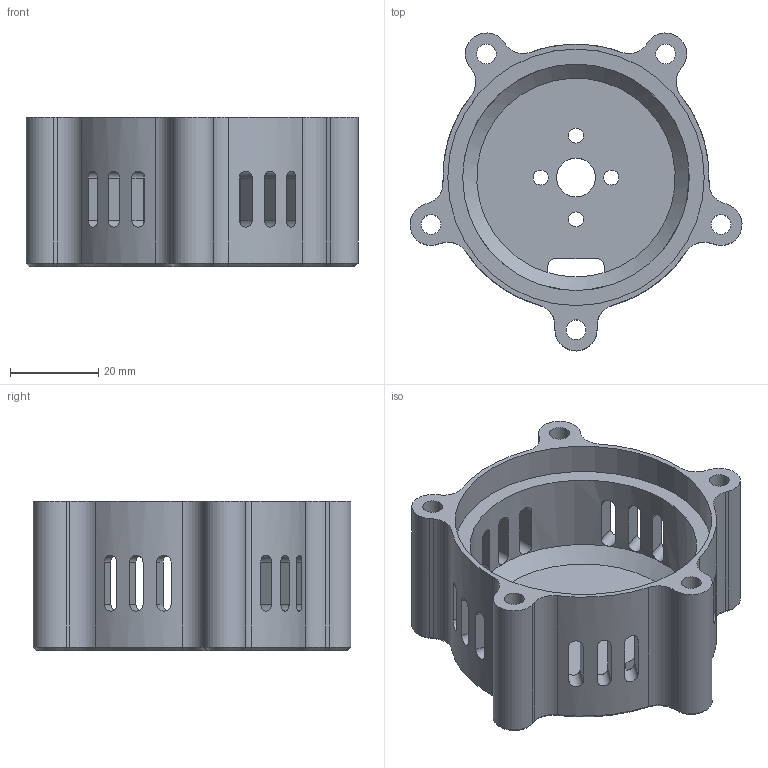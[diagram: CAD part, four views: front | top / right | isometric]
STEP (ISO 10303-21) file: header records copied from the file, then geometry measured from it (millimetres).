
FILE_DESCRIPTION(/* description */ ('STEP AP242 Edition 2','CAx-IF Rec.Pracs.---Representation and Presentation of Product Manufacturing Information (PMI)---4.0---2014-10-13','CAx-IF Rec.Pracs.---3D Tessellated Geometry---0.4---2014-09-14','2;1','CAx-IF Rec.Pracs.---User Defined Attributes---1.5---2016-08-15'),/* implementation_level */ '2;1');
FILE_NAME(/* name */ 'Main - Motor Carriage',/* time_stamp */ '2026-07-24T17:05:33Z',/* author */ (''),/* organization */ (''),/* preprocessor_version */ 'ST-DEVELOPER v20',/* originating_system */ 'ONSHAPE BY PTC INC, 1.218',/* authorisation */ ' ');
FILE_SCHEMA (('AP242_MANAGED_MODEL_BASED_3D_ENGINEERING_MIM_LF { 1 0 10303 442 3 1 4 }'));
Length unit declared in the file: metre
Products named in the file (1): Motor Carriage
Bounding box: 75.23 x 72.01 x 33.81 mm (x, y, z)
Volume: 43038.4 mm3; surface area: 22820.7 mm2
Topology: 1 solids, 1 shells, 156 faces, 447 edges, 283 vertices
Faces by surface type: cylinder 70, plane 61, cone 25
Full cylindrical faces by diameter (mm): 3.4 x4, 4 x4, 4.5 x5, 8.794 x1, 51.337 x1, 58.127 x1
Entity records: 5195 total; most frequent: CARTESIAN_POINT 1232, ORIENTED_EDGE 828, DIRECTION 768, EDGE_CURVE 414, AXIS2_PLACEMENT_3D 273, VERTEX_POINT 272, LINE 222, VECTOR 222
